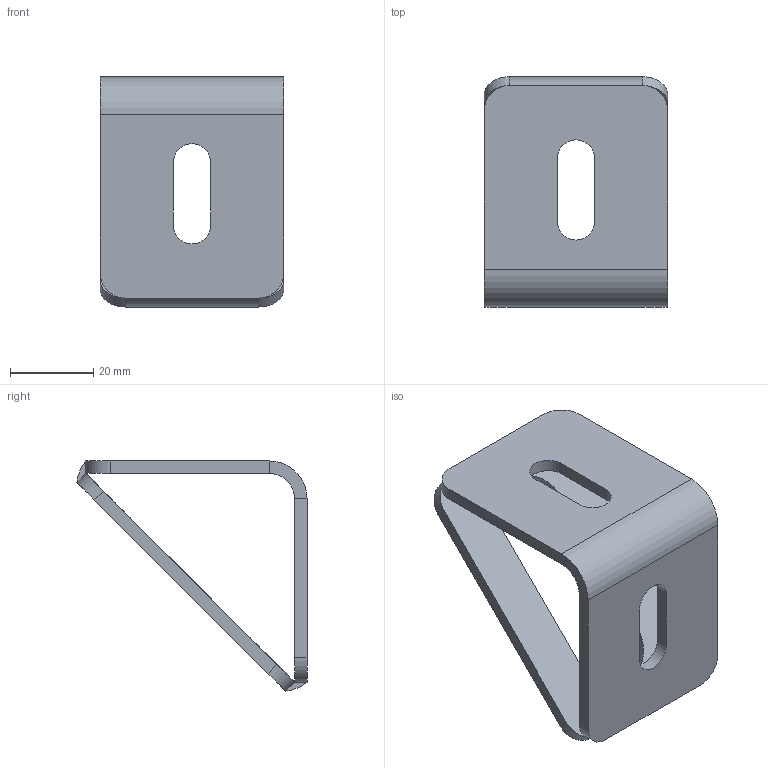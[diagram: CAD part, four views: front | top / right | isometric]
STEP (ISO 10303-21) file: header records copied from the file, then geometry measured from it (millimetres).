
FILE_DESCRIPTION (( 'STEP AP214' ), '1' );
FILE_NAME ('8501s.STEP', '2022-12-09T11:13:22', ( '' ), ( '' ), 'SwSTEP 2.0', 'SolidWorks 2020', '' );
FILE_SCHEMA (( 'AUTOMOTIVE_DESIGN' ));
Length unit declared in the file: millimetre
Products named in the file (4): 8501s; 8501s (2); 栱僦罻; 8501s (1)
Assembly tree (4 placements, depth 2):
  8501s
    8501s (1)
    8501s (2)
    栱僦罻  x2
Bounding box: 44 x 55.12 x 55.12 mm (x, y, z)
Volume: 18360 mm3; surface area: 15040.2 mm2
Topology: 4 solids, 4 shells, 51 faces, 121 edges, 78 vertices
Faces by surface type: plane 32, cylinder 19
Entity records: 1522 total; most frequent: DIRECTION 254, CARTESIAN_POINT 237, ORIENTED_EDGE 224, EDGE_CURVE 112, AXIS2_PLACEMENT_3D 89, VECTOR 76, LINE 76, VERTEX_POINT 72
